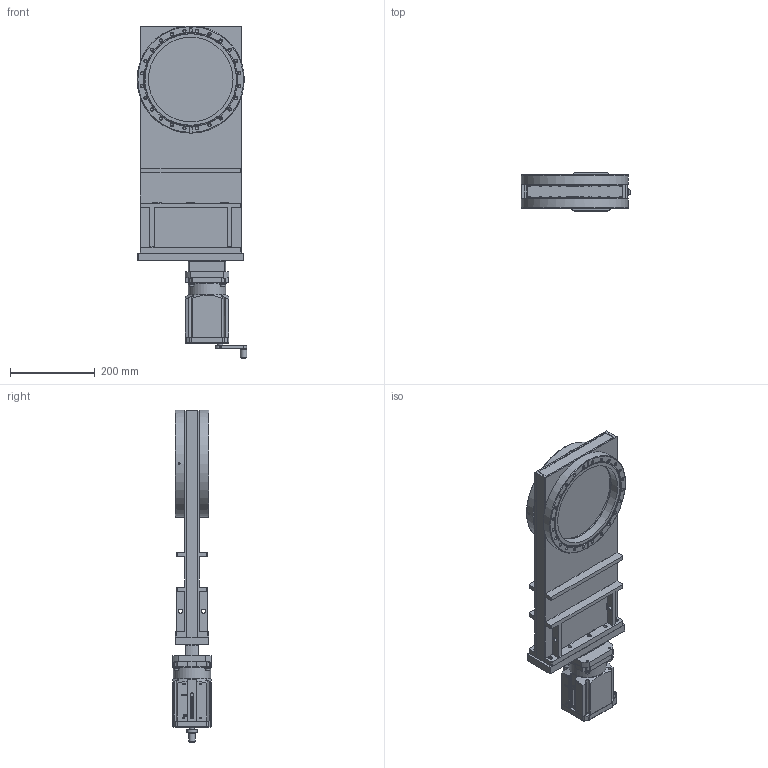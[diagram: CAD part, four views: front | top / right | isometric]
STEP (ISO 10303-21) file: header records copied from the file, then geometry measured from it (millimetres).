
FILE_DESCRIPTION(/* description */ (''),/* implementation_level */ '2;1');
FILE_NAME(/* name */ '1278584596_203.stp',/* time_stamp */ '2021-11-16T08:49:13+01:00',/* author */ (''),/* organization */ (''),/* preprocessor_version */ 'ST-DEVELOPER v16.7',/* originating_system */ 'SIEMENS PLM Software NX 1915',/* authorisation */ '');
FILE_SCHEMA (('AP203_CONFIGURATION_CONTROLLED_3D_DESIGN_OF_MECHANICAL_PARTS_AND_ASSEMBLIES_MIM_LF { 1 0 10303 403 2 1 2}'));
Length unit declared in the file: millimetre
Products named in the file (41): 833986_30472ID; 833986_30480ID; 834001_30482ID; 834001_30483ID; 834006_30485ID; 834014_30487ID; 834014_30488ID; 834046_30490ID; 834046_30491ID; 834046_30492ID; 834046_30493ID; 834044_30494ID; 834044_30495ID; 834044_30496ID; 834044_30470ID; N-6198-006.1; N-5054-012.1; 78964-01.1; 78965-01.1; 79163-01.1; n-6099-511.1; 25838-01_1.1_30475ID; 25838-01_1.1_30474ID; 79156-01.2; N-6099-458.1; 79151-01.2; 224810; 205446.1; 206693-01.1; 842824; 65313-01.1; N-7557-016_3.1; 224811.1; 79157-01.2; 74628-01.3; 778871; 834047_MODEL; 889790_MODEL; 79162-R1.1; 207954.1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
Assembly tree (55 placements, depth 4):
  899741
    778871  x6
    74628-01.3
    79157-01.2  x4
    224811.1  x4
    207954.1
      79162-R1.1
        79163-01.1
        78965-01.1
        78964-01.1
        N-5054-012.1
        N-6198-006.1
      206693-01.1
      205446.1
      224810  x4
      79151-01.2
      N-6099-458.1
      79156-01.2
    N-7557-016_3.1
    889790_MODEL
      834047_MODEL
        834044_30470ID
        834044_30496ID
        834044_30495ID
        834044_30494ID
        834046_30493ID
        834046_30492ID
        834046_30491ID
        834046_30490ID
        834014_30488ID
        834014_30487ID
        834006_30485ID
        834001_30483ID
        834001_30482ID
        833986_30480ID
        833986_30472ID
      25838-01_1.1_30474ID
      25838-01_1.1_30475ID
      n-6099-511.1  x2
    65313-01.1
    842824
Bounding box: 259.18 x 90 x 785.25 mm (x, y, z)
Volume: 4062723.8 mm3; surface area: 1063433.6 mm2
Topology: 65 solids, 65 shells, 1506 faces, 4026 edges, 2722 vertices
Faces by surface type: plane 877, cylinder 379, cone 185, torus 47, bspline 18
Full cylindrical faces by diameter (mm): 2 x1, 2.125 x1, 2.8 x1, 3 x1, 3.3 x4, 4 x1, 4.35 x5, 4.5 x2, 4.625 x2, 4.96 x8, 5 x16, 5.4 x2, 5.85 x1, 5.97 x1, 5.994 x2, 6 x18, 6.1 x1, 6.15 x1, 6.45 x8, 7 x1, 7.01 x48, 7.1 x1, 8 x2, 8.25 x4, 8.3 x1, 8.36 x6, 8.4 x6, 8.45 x2, 8.5 x15, 8.75 x2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
Entity records: 57996 total; most frequent: CARTESIAN_POINT 22855, DIRECTION 6134, ORIENTED_EDGE 6024, EDGE_CURVE 3012, VERTEX_POINT 2293, AXIS2_PLACEMENT_3D 2076, LINE 1982, VECTOR 1982
